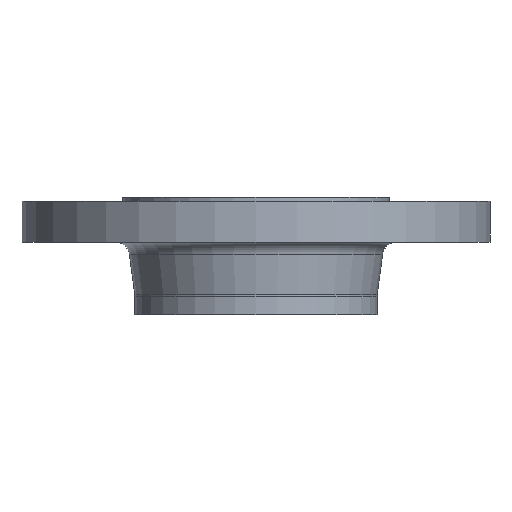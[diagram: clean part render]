
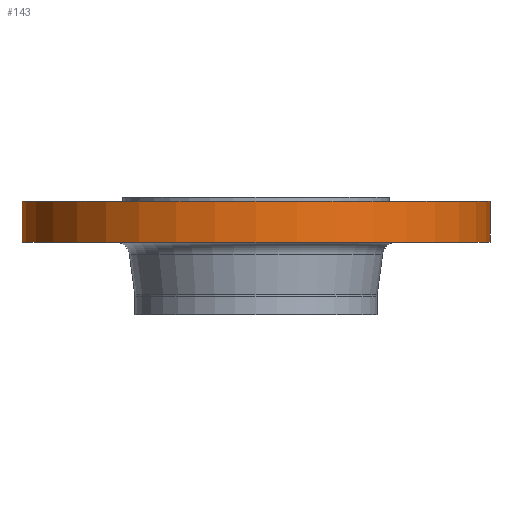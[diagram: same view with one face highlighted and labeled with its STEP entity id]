
A CAD part, front view. The second image highlights one B-rep face of the part: STEP entity #143.
In plain terms, the highlighted cylindrical face has radius 135 mm (diameter 270 mm), a partial arc.
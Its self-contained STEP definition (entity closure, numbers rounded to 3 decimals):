
#11 = VERTEX_POINT ( 'NONE', #446 ) ;
#34 = EDGE_CURVE ( 'NONE', #11, #382, #69, .T. ) ;
#69 = LINE ( 'NONE', #448, #119 ) ;
#119 = VECTOR ( 'NONE', #822, 1000. ) ;
#136 = CARTESIAN_POINT ( 'NONE',  ( 0., 0., -2.5 ) ) ;
#143 = ADVANCED_FACE ( 'NONE', ( #287 ), #668, .T. ) ;
#162 = ORIENTED_EDGE ( 'NONE', *, *, #501, .T. ) ;
#187 = DIRECTION ( 'NONE',  ( 0., 0., -1. ) ) ;
#199 = DIRECTION ( 'NONE',  ( 0., 0., 1. ) ) ;
#210 = CARTESIAN_POINT ( 'NONE',  ( 135., 0., -78. ) ) ;
#238 = ORIENTED_EDGE ( 'NONE', *, *, #34, .F. ) ;
#287 = FACE_OUTER_BOUND ( 'NONE', #598, .T. ) ;
#305 = AXIS2_PLACEMENT_3D ( 'NONE', #136, #515, #882 ) ;
#382 = VERTEX_POINT ( 'NONE', #663 ) ;
#386 = VERTEX_POINT ( 'NONE', #485 ) ;
#402 = VECTOR ( 'NONE', #591, 1000. ) ;
#446 = CARTESIAN_POINT ( 'NONE',  ( -135., 0., -26. ) ) ;
#448 = CARTESIAN_POINT ( 'NONE',  ( -135., 0., -78. ) ) ;
#485 = CARTESIAN_POINT ( 'NONE',  ( 135., 0., -2.5 ) ) ;
#501 = EDGE_CURVE ( 'NONE', #386, #382, #835, .T. ) ;
#515 = DIRECTION ( 'NONE',  ( 0., 0., -1. ) ) ;
#564 = DIRECTION ( 'NONE',  ( -1., 0., 0. ) ) ;
#577 = DIRECTION ( 'NONE',  ( 1., 0., 0. ) ) ;
#591 = DIRECTION ( 'NONE',  ( 0., 0., 1. ) ) ;
#598 = EDGE_LOOP ( 'NONE', ( #238, #785, #881, #162 ) ) ;
#663 = CARTESIAN_POINT ( 'NONE',  ( -135., 0., -2.5 ) ) ;
#668 = CYLINDRICAL_SURFACE ( 'NONE', #682, 135. ) ;
#682 = AXIS2_PLACEMENT_3D ( 'NONE', #1038, #199, #577 ) ;
#687 = AXIS2_PLACEMENT_3D ( 'NONE', #1024, #187, #564 ) ;
#751 = EDGE_CURVE ( 'NONE', #1075, #386, #1051, .T. ) ;
#785 = ORIENTED_EDGE ( 'NONE', *, *, #1001, .F. ) ;
#822 = DIRECTION ( 'NONE',  ( 0., 0., 1. ) ) ;
#835 = CIRCLE ( 'NONE', #305, 135. ) ;
#881 = ORIENTED_EDGE ( 'NONE', *, *, #751, .T. ) ;
#882 = DIRECTION ( 'NONE',  ( -1., 0., 0. ) ) ;
#964 = CARTESIAN_POINT ( 'NONE',  ( 135., 0., -26. ) ) ;
#1001 = EDGE_CURVE ( 'NONE', #1075, #11, #1213, .T. ) ;
#1024 = CARTESIAN_POINT ( 'NONE',  ( 0., 0., -26. ) ) ;
#1038 = CARTESIAN_POINT ( 'NONE',  ( 0., 0., -78. ) ) ;
#1051 = LINE ( 'NONE', #210, #402 ) ;
#1075 = VERTEX_POINT ( 'NONE', #964 ) ;
#1213 = CIRCLE ( 'NONE', #687, 135. ) ;
